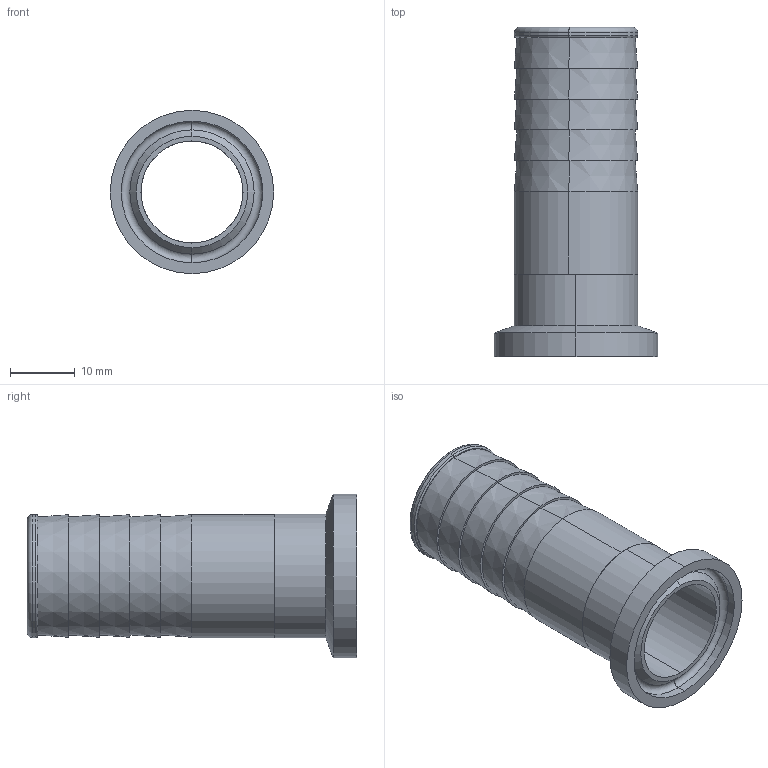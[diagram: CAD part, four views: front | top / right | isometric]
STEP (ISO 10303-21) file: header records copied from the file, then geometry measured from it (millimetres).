
FILE_DESCRIPTION (( 'STEP AP203' ), '1' );
FILE_NAME ('EG14RT.75.STEP', '2018-05-03T13:26:45', ( 'vneprd' ), ( 'Microsoft' ), 'SwSTEP 2.0', 'SolidWorks 2014', '' );
FILE_SCHEMA (( 'CONFIG_CONTROL_DESIGN' ));
Length unit declared in the file: inch
Products named in the file (3): EG14RT.75; EG2CS.75; V14RH.750
Assembly tree (2 placements, depth 2):
  EG14RT.75
    EG2CS.75
    V14RH.750
Bounding box: 25.2 x 50.8 x 25.2 mm (x, y, z)
Volume: 4918.7 mm3; surface area: 6523.4 mm2
Topology: 2 solids, 2 shells, 44 faces, 88 edges, 54 vertices
Faces by surface type: cylinder 14, cone 14, plane 10, torus 6
Entity records: 1479 total; most frequent: DIRECTION 246, CARTESIAN_POINT 191, ORIENTED_EDGE 176, AXIS2_PLACEMENT_3D 109, EDGE_CURVE 88, CIRCLE 60, VERTEX_POINT 54, EDGE_LOOP 54
